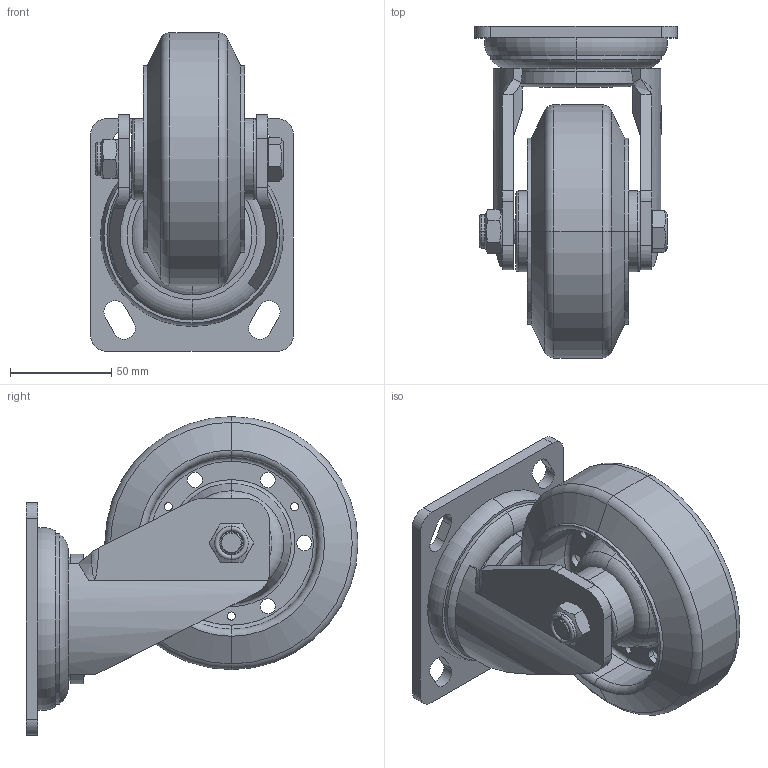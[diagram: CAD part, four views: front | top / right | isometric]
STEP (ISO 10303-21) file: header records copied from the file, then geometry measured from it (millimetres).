
FILE_DESCRIPTION (( 'STEP AP203' ), '1' );
FILE_NAME ('重型5寸万向.STEP', '2024-04-12T09:44:17', ( '微软用户' ), ( '微软中国' ), 'SwSTEP 2.0', 'SolidWorks 2008', '' );
FILE_SCHEMA (( 'CONFIG_CONTROL_DESIGN' ));
Length unit declared in the file: millimetre
Products named in the file (6): 重型万向底板_默认; 5寸橡胶轮_默认; M7  5寸万向臂(55)_默认; M12螺母_默认; 笭倰5渡勀砃; 12｡ﾁ85ﾂﾝｸﾋ_ﾄｬﾈﾏ
Assembly tree (5 placements, depth 2):
  笭倰5渡勀砃
    M12螺母_默认
    M7  5寸万向臂(55)_默认
    重型万向底板_默认
    5寸橡胶轮_默认
    12｡ﾁ85ﾂﾝｸﾋ_ﾄｬﾈﾏ
Bounding box: 100 x 163.9 x 157.46 mm (x, y, z)
Volume: 605213.6 mm3; surface area: 124405.9 mm2
Topology: 6 solids, 6 shells, 330 faces, 816 edges, 524 vertices
Faces by surface type: plane 123, cylinder 85, bspline 54, torus 44, cone 24
Entity records: 15436 total; most frequent: CARTESIAN_POINT 7180, ORIENTED_EDGE 1628, DIRECTION 1501, EDGE_CURVE 814, AXIS2_PLACEMENT_3D 574, VERTEX_POINT 524, EDGE_LOOP 392, VECTOR 353
